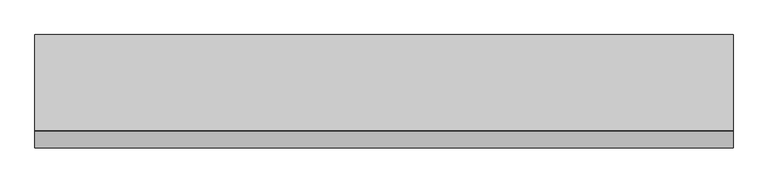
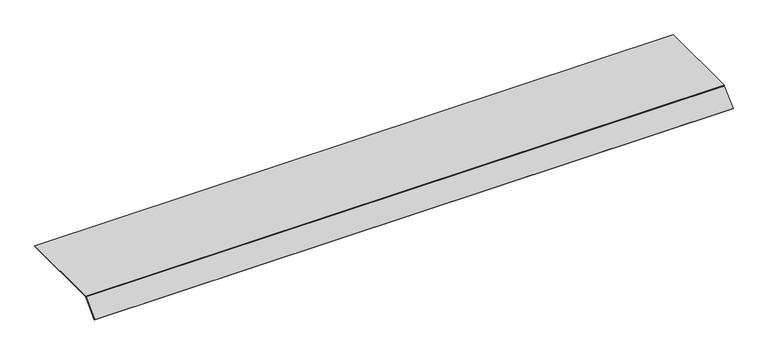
"""IFC4 building model written with IfcOpenShell, lengths in millimetres: proxy geometry, Electrical_Installation_Hager_Blank-Cover-800mm-Single-Sided-Height-70mm : Electrical_Installation_Hager_Blank-Cover-800mm-Single-Sided-Height-70mm."""

from ifc_helpers import new_model, si_unit, point, frame, frame_2d, origin, place, context, project, spatial, polyline, circle_curve, trimmed, segment, composite_curve, outline, extrude, source, transform, mapped, element, save


def electrical_fixtures_32ec25d4(model_context):
    return source(origin(), model_context, "Body", "SweptSolid", [
        extrude(outline(composite_curve([segment(polyline([(200.0, 40.5), (200.0, 37.5), (-199.8229541, 37.5)]), True, "CONTINUOUS"), segment(trimmed(circle_curve(frame_2d((-199.8229541, 36.0725733)), 1.4274267), [point((-199.8229541, 37.5))], [point((-200.8322972, 37.0819164))], True, "CARTESIAN"), True, "CONTINUOUS"), segment(polyline([(-200.8322972, 37.0819164), (-268.6627596, -30.7485461), (-270.78408, -28.6272257), (-202.8206472, 39.336207)]), True, "CONTINUOUS"), segment(trimmed(circle_curve(frame_2d((-200.0110025, 36.5265623)), 3.9734377), [point((-202.8206472, 39.336207))], [point((-200.0110025, 40.5))], False, "CARTESIAN"), True, "CONTINUOUS"), segment(polyline([(-200.0110025, 40.5), (200.0, 40.5)]), True, "CONTINUOUS")], self_intersect=False)), frame((0.0, 0.0, 0.0), z_axis=(1.0, 0.0, 0.0), x_axis=(0.0, 1.0, 0.0)), (0.0, 0.0, 1.0), 2900.0),
    ])


if __name__ == "__main__":
    model = new_model("IFC4")
    model_context = context("Model", 3, world=origin())
    ifc_project = project(units=[si_unit("LENGTHUNIT", "METRE", prefix="MILLI")], contexts=[model_context])
    site = spatial("IfcSite", under=ifc_project)
    building = spatial("IfcBuilding", under=site)
    placement = place(None, origin())
    electrical_fixtures_shape = electrical_fixtures_32ec25d4(model_context)
    element("IfcBuildingElementProxy", 1, Name="Electrical_Installation_Hager_Blank-Cover-800mm-Single-Sided-Height-70mm : Electrical_Installation_Hager_Blank-Cover-800mm-Single-Sided-Height-70mm", ObjectType="Electrical_Installation_Hager_Blank-Cover-800mm-Single-Sided-Height-70mm : Electrical_Installation_Hager_Blank-Cover-800mm-Single-Sided-Height-70mm", at=placement, inside=building, context=model_context, shape_type="MappedRepresentation", body=[
        mapped(electrical_fixtures_shape, transform((0.0, 0.0, 0.0), x_axis=(1.0, 0.0, 0.0), y_axis=(0.0, 1.0, 0.0), z_axis=(0.0, 0.0, 1.0))),
    ])
    save(model, "model.ifc")
